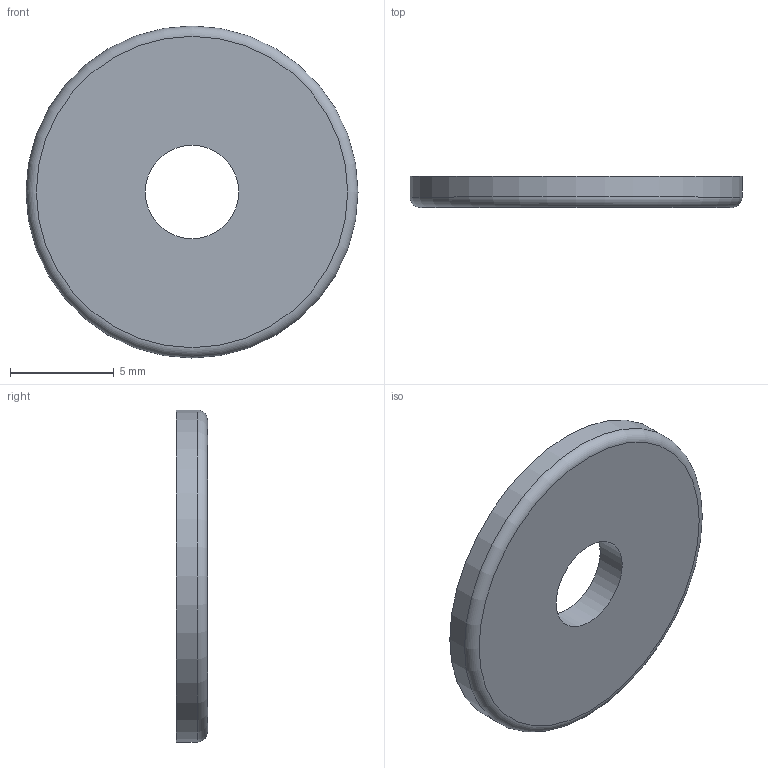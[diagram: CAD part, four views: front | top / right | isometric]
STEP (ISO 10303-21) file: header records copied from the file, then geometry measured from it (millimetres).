
FILE_DESCRIPTION(('STEP AP214'),'1');
FILE_NAME('PW16-M4.stp','2017-07-18T04:30:06',(' '),(' '),'Spatial InterOp 3D',' ',' ');
FILE_SCHEMA(('automotive_design'));
Length unit declared in the file: millimetre
Products named in the file (1): PW16-M4
Bounding box: 16 x 1.5 x 16 mm (x, y, z)
Volume: 275.1 mm3; surface area: 456 mm2
Topology: 1 solids, 1 shells, 5 faces, 8 edges, 5 vertices
Faces by surface type: cylinder 2, plane 2, torus 1
Full cylindrical faces by diameter (mm): 4.5 x1, 16 x1
Entity records: 164 total; most frequent: DIRECTION 22, CARTESIAN_POINT 16, AXIS2_PLACEMENT_3D 11, EDGE_LOOP 10, ORIENTED_EDGE 10, FACE_OUTER_BOUND 8, STYLED_ITEM 5, PRESENTATION_STYLE_ASSIGNMENT 5
